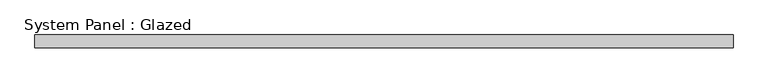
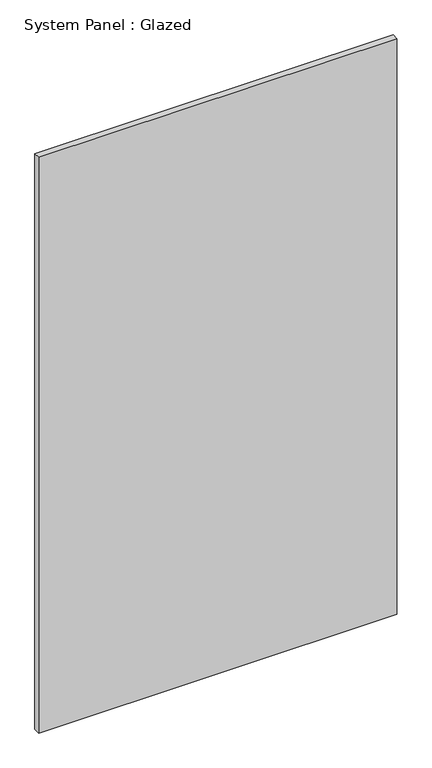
"""IFC4 building model written with IfcOpenShell, lengths in millimetres: plate geometry, System Panel : Glazed."""

from ifc_helpers import new_model, si_unit, origin, origin_with_axes, place, context, project, spatial, polyline, outline, extrude, source, transform, mapped, element, save


def system_panel_glazed_6bd74036(model_context):
    return source(origin(), model_context, "Body", "SweptSolid", [
        extrude(outline(polyline([(698.6023927, 19.05), (-698.6023927, 19.05), (-698.6023927, 44.45), (698.6023927, 44.45), (698.6023927, 19.05)])), origin_with_axes(), (0.0, 0.0, 1.0), 2374.9),
    ])


if __name__ == "__main__":
    model = new_model("IFC4")
    model_context = context("Model", 3, world=origin())
    ifc_project = project(units=[si_unit("LENGTHUNIT", "METRE", prefix="MILLI")], contexts=[model_context])
    site = spatial("IfcSite", under=ifc_project)
    building = spatial("IfcBuilding", under=site)
    placement = place(None, origin())
    system_panel_glazed_shape = system_panel_glazed_6bd74036(model_context)
    element("IfcPlate", 1, ObjectType="System Panel : Glazed", at=placement, inside=building, context=model_context, shape_type="MappedRepresentation", body=[
        mapped(system_panel_glazed_shape, transform((0.0, 0.0, 0.0), x_axis=(1.0, 0.0, 0.0), y_axis=(0.0, 1.0, 0.0), z_axis=(0.0, 0.0, 1.0))),
    ])
    save(model, "model.ifc")
